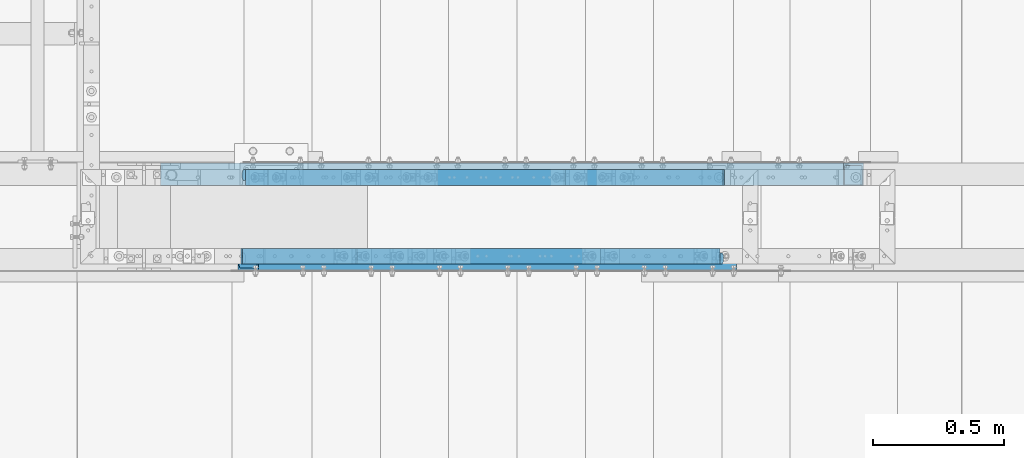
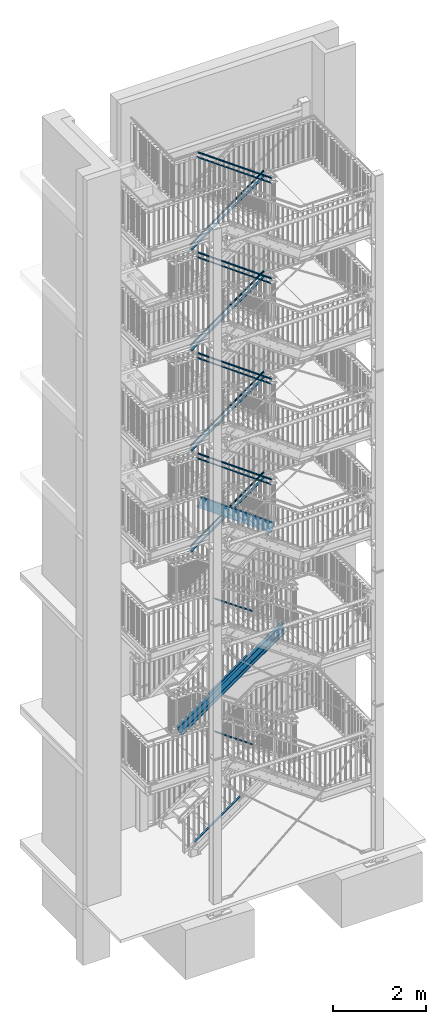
# One storey, part 121 of 821: 22 members, 38 openings.
"""IFC2X3 building model written with IfcOpenShell, lengths in millimetres."""

from ifc_helpers import new_model, entity, si_unit, converted_unit, frame, frame_2d, origin, origin_with_axes, origin_2d, origin_2d_with_axis, place, context, project, spatial, rectangle, circle, hollow_circle, u_section, extrude, clip, halfspace, material, element, save


model = new_model("IFC2X3")

# Units and contexts
model_context = context("Model", 3, precision=1e-09, world=origin_with_axes())
ifc_project = project(units=[si_unit("LENGTHUNIT", "METRE", prefix="MILLI"), si_unit("AREAUNIT", "SQUARE_METRE"), si_unit("VOLUMEUNIT", "CUBIC_METRE"), converted_unit("PLANEANGLEUNIT", "DEGREE", entity("IfcPlaneAngleMeasure", 0.01745329), si_unit("PLANEANGLEUNIT", "RADIAN"), dimensions=[0, 0, 0, 0, 0, 0, 0])], contexts=[model_context])

# Site, building, storey
site_placement = place(None, origin_with_axes())
site = spatial("IfcSite", under=ifc_project, at=site_placement, Name="Cnopf'sche Kinderklinik", CompositionType="ELEMENT")
building_placement = place(site_placement, origin_with_axes())
building = spatial("IfcBuilding", under=site, at=building_placement, Name="Struktur 1", CompositionType="ELEMENT")
storey_placement = place(building_placement, origin_with_axes())
storey = spatial("IfcBuildingStorey", under=building, at=storey_placement, Name="Default Storey", CompositionType="ELEMENT", Elevation=0.0)

# Member, openings
ifc_material = material(Name="S235JR")
member_1_placement = place(None, frame((7252.357329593, 5759.036971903, 8386.450295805), z_axis=(0.810350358, 0.0, -0.585945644), x_axis=(0.0, 1.0, 0.0)))
member_1 = element("IfcMember", 1, at=member_1_placement, inside=storey, material=ifc_material, Name="Stringer#2", ObjectType="Stringer#2", context=model_context, shape_type="Clipping", body=[
    clip(clip(extrude(u_section(Depth=240.0, FlangeWidth=85.0, WebThickness=9.5, FlangeThickness=13.0, FilletRadius=13.0, EdgeRadius=6.5, FlangeSlope=4.574, at=frame_2d((20.2, 0.0))), origin(), (0.0, 0.0, -1.0), 2765.811710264), halfspace(frame((-5759.036971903, -9780.725399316, 2944.574754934), z_axis=(0.0, -0.307936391, -0.951406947), x_axis=(-1.0, 0.0, 0.0)), True)), halfspace(frame((-5759.036971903, -10438.724783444, 911.605598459), z_axis=(0.0, 0.307936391, 0.951406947), x_axis=(1.0, 0.0, 0.0)), True)),
])
opening_1_placement = place(member_1_placement, frame((-22.8, -50.547583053, -1111.89657849), z_axis=(1.0, 0.0, 0.0), x_axis=(0.0, -0.585945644, -0.810350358)))
element("IfcOpeningElement", 2, at=opening_1_placement, cuts=member_1, ObjectType="Opening", context=model_context, shape_type="SweptSolid", body=[
    extrude(circle(Radius=7.001, at=origin_2d_with_axis()), origin(), (0.0, 0.0, 1.0), 10.5),
])
opening_2_placement = place(member_1_placement, frame((-22.8, 54.922632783, -1928.580136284), z_axis=(1.0, 0.0, 0.0), x_axis=(0.0, -0.585945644, -0.810350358)))
element("IfcOpeningElement", 3, at=opening_2_placement, cuts=member_1, ObjectType="Opening", context=model_context, shape_type="SweptSolid", body=[
    extrude(circle(Radius=7.001, at=origin_2d_with_axis()), origin(), (0.0, 0.0, 1.0), 10.5),
])
opening_3_placement = place(member_1_placement, frame((-22.8, 54.922632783, -645.184639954), z_axis=(1.0, 0.0, 0.0), x_axis=(0.0, -0.585945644, -0.810350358)))
element("IfcOpeningElement", 4, at=opening_3_placement, cuts=member_1, ObjectType="Opening", context=model_context, shape_type="SweptSolid", body=[
    extrude(circle(Radius=7.001, at=origin_2d_with_axis()), origin(), (0.0, 0.0, 1.0), 10.5),
])
opening_4_placement = place(member_1_placement, frame((-22.8, 54.922632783, -2249.429010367), z_axis=(1.0, 0.0, 0.0), x_axis=(0.0, -0.585945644, -0.810350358)))
element("IfcOpeningElement", 5, at=opening_4_placement, cuts=member_1, ObjectType="Opening", context=model_context, shape_type="SweptSolid", body=[
    extrude(circle(Radius=7.001, at=origin_2d_with_axis()), origin(), (0.0, 0.0, 1.0), 10.5),
])
opening_5_placement = place(member_1_placement, frame((-22.8, -50.547583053, -1753.594326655), z_axis=(1.0, 0.0, 0.0), x_axis=(0.0, -0.585945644, -0.810350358)))
element("IfcOpeningElement", 6, at=opening_5_placement, cuts=member_1, ObjectType="Opening", context=model_context, shape_type="SweptSolid", body=[
    extrude(circle(Radius=7.001, at=origin_2d_with_axis()), origin(), (0.0, 0.0, 1.0), 10.5),
])
opening_6_placement = place(member_1_placement, frame((-22.8, -50.547583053, -2395.29207482), z_axis=(1.0, 0.0, 0.0), x_axis=(0.0, -0.585945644, -0.810350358)))
element("IfcOpeningElement", 7, at=opening_6_placement, cuts=member_1, ObjectType="Opening", context=model_context, shape_type="SweptSolid", body=[
    extrude(circle(Radius=7.001, at=origin_2d_with_axis()), origin(), (0.0, 0.0, 1.0), 10.5),
])
opening_7_placement = place(member_1_placement, frame((-22.8, -50.547583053, -791.047704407), z_axis=(1.0, 0.0, 0.0), x_axis=(0.0, -0.585945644, -0.810350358)))
element("IfcOpeningElement", 8, at=opening_7_placement, cuts=member_1, ObjectType="Opening", context=model_context, shape_type="SweptSolid", body=[
    extrude(circle(Radius=7.001, at=origin_2d_with_axis()), origin(), (0.0, 0.0, 1.0), 10.5),
])
opening_8_placement = place(member_1_placement, frame((-22.8, 54.922632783, -966.033514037), z_axis=(1.0, 0.0, 0.0), x_axis=(0.0, -0.585945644, -0.810350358)))
element("IfcOpeningElement", 9, at=opening_8_placement, cuts=member_1, ObjectType="Opening", context=model_context, shape_type="SweptSolid", body=[
    extrude(circle(Radius=7.001, at=origin_2d_with_axis()), origin(), (0.0, 0.0, 1.0), 10.5),
])
opening_9_placement = place(member_1_placement, frame((-22.8, -50.547583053, -1432.745452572), z_axis=(1.0, 0.0, 0.0), x_axis=(0.0, -0.585945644, -0.810350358)))
element("IfcOpeningElement", 10, at=opening_9_placement, cuts=member_1, ObjectType="Opening", context=model_context, shape_type="SweptSolid", body=[
    extrude(circle(Radius=7.001, at=origin_2d_with_axis()), origin(), (0.0, 0.0, 1.0), 10.5),
])
opening_10_placement = place(member_1_placement, frame((-22.8, -50.547583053, -2074.443200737), z_axis=(1.0, 0.0, 0.0), x_axis=(0.0, -0.585945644, -0.810350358)))
element("IfcOpeningElement", 11, at=opening_10_placement, cuts=member_1, ObjectType="Opening", context=model_context, shape_type="SweptSolid", body=[
    extrude(circle(Radius=7.001, at=origin_2d_with_axis()), origin(), (0.0, 0.0, 1.0), 10.5),
])
opening_11_placement = place(member_1_placement, frame((-22.8, 54.922632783, -1286.882388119), z_axis=(1.0, 0.0, 0.0), x_axis=(0.0, -0.585945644, -0.810350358)))
element("IfcOpeningElement", 12, at=opening_11_placement, cuts=member_1, ObjectType="Opening", context=model_context, shape_type="SweptSolid", body=[
    extrude(circle(Radius=7.001, at=origin_2d_with_axis()), origin(), (0.0, 0.0, 1.0), 10.5),
])
opening_12_placement = place(member_1_placement, frame((-22.8, 54.922632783, -1607.731262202), z_axis=(1.0, 0.0, 0.0), x_axis=(0.0, -0.585945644, -0.810350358)))
element("IfcOpeningElement", 13, at=opening_12_placement, cuts=member_1, ObjectType="Opening", context=model_context, shape_type="SweptSolid", body=[
    extrude(circle(Radius=7.001, at=origin_2d_with_axis()), origin(), (0.0, 0.0, 1.0), 10.5),
])
opening_13_placement = place(member_1_placement, frame((32.7, 120.5, -422.650824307), z_axis=(0.0, 1.0, 0.0), x_axis=(-1.0, 0.0, 0.0)))
element("IfcOpeningElement", 14, at=opening_13_placement, cuts=member_1, ObjectType="Opening", context=model_context, shape_type="SweptSolid", body=[
    extrude(circle(Radius=7.001, at=frame_2d((0.0, -7.001), x_axis=(1.0, 0.0))), origin(), (0.0, 0.0, -1.0), 14.0),
])
opening_14_placement = place(member_1_placement, frame((32.7, 120.5, -322.650824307), z_axis=(0.0, 1.0, 0.0), x_axis=(-1.0, 0.0, 0.0)))
element("IfcOpeningElement", 15, at=opening_14_placement, cuts=member_1, ObjectType="Opening", context=model_context, shape_type="SweptSolid", body=[
    extrude(circle(Radius=7.001, at=frame_2d((0.0, -7.001), x_axis=(1.0, 0.0))), origin(), (0.0, 0.0, -1.0), 14.0),
])
opening_15_placement = place(member_1_placement, frame((32.7, 120.5, -1851.045948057), z_axis=(0.0, 1.0, 0.0), x_axis=(-1.0, 0.0, 0.0)))
element("IfcOpeningElement", 16, at=opening_15_placement, cuts=member_1, ObjectType="Opening", context=model_context, shape_type="SweptSolid", body=[
    extrude(circle(Radius=7.001, at=frame_2d((0.0, -7.001), x_axis=(1.0, 0.0))), origin(), (0.0, 0.0, -1.0), 14.0),
])
opening_16_placement = place(member_1_placement, frame((32.7, 120.5, -1751.045948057), z_axis=(0.0, 1.0, 0.0), x_axis=(-1.0, 0.0, 0.0)))
element("IfcOpeningElement", 17, at=opening_16_placement, cuts=member_1, ObjectType="Opening", context=model_context, shape_type="SweptSolid", body=[
    extrude(circle(Radius=7.001, at=frame_2d((0.0, -7.001), x_axis=(1.0, 0.0))), origin(), (0.0, 0.0, -1.0), 14.0),
])

member_2_placement = place(None, frame((4776.641171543, 6124.436971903, 3599.654006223), z_axis=(-0.818063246, 0.0, -0.575128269), x_axis=(0.0, -1.0, 0.0)))
member_2 = element("IfcMember", 18, at=member_2_placement, inside=storey, material=ifc_material, Name="Stringer#2", ObjectType="Stringer#2", context=model_context, shape_type="Clipping", body=[
    clip(clip(extrude(u_section(Depth=240.0, FlangeWidth=85.0, WebThickness=9.5, FlangeThickness=13.0, FilletRadius=13.0, EdgeRadius=6.5, FlangeSlope=4.574, at=frame_2d((20.2, 0.0))), origin(), (0.0, 0.0, -1.0), 3697.004056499), halfspace(frame((6124.436971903, -2876.228700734, -2489.789648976), z_axis=(0.0, 0.301609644, 0.953431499), x_axis=(1.0, 0.0, 0.0)), True)), halfspace(frame((6124.436971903, -1962.281935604, 399.327631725), z_axis=(0.0, -0.301609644, -0.953431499), x_axis=(-1.0, 0.0, 0.0)), True)),
])
opening_17_placement = place(member_2_placement, frame((-22.8, 54.877031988, -2232.875726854), z_axis=(1.0, 0.0, 0.0), x_axis=(0.0, -0.575128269, -0.818063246)))
element("IfcOpeningElement", 19, at=opening_17_placement, cuts=member_2, ObjectType="Opening", context=model_context, shape_type="SweptSolid", body=[
    extrude(circle(Radius=7.001, at=origin_2d_with_axis()), origin(), (0.0, 0.0, 1.0), 10.5),
])
opening_18_placement = place(member_2_placement, frame((-22.8, -48.646056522, -2380.127111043), z_axis=(1.0, 0.0, 0.0), x_axis=(0.0, -0.575128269, -0.818063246)))
element("IfcOpeningElement", 20, at=opening_18_placement, cuts=member_2, ObjectType="Opening", context=model_context, shape_type="SweptSolid", body=[
    extrude(circle(Radius=7.001, at=origin_2d_with_axis()), origin(), (0.0, 0.0, 1.0), 10.5),
])
opening_19_placement = place(member_2_placement, frame((-22.8, 54.87703196, -1915.051889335), z_axis=(1.0, 0.0, 0.0), x_axis=(0.0, -0.575128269, -0.818063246)))
element("IfcOpeningElement", 21, at=opening_19_placement, cuts=member_2, ObjectType="Opening", context=model_context, shape_type="SweptSolid", body=[
    extrude(circle(Radius=7.001, at=origin_2d_with_axis()), origin(), (0.0, 0.0, 1.0), 10.5),
])
opening_20_placement = place(member_2_placement, frame((-22.8, 54.877032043, -2868.523401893), z_axis=(1.0, 0.0, 0.0), x_axis=(0.0, -0.575128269, -0.818063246)))
element("IfcOpeningElement", 22, at=opening_20_placement, cuts=member_2, ObjectType="Opening", context=model_context, shape_type="SweptSolid", body=[
    extrude(circle(Radius=7.001, at=origin_2d_with_axis()), origin(), (0.0, 0.0, 1.0), 10.5),
])
opening_21_placement = place(member_2_placement, frame((-22.8, 54.877031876, -961.580376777), z_axis=(1.0, 0.0, 0.0), x_axis=(0.0, -0.575128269, -0.818063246)))
element("IfcOpeningElement", 23, at=opening_21_placement, cuts=member_2, ObjectType="Opening", context=model_context, shape_type="SweptSolid", body=[
    extrude(circle(Radius=7.001, at=origin_2d_with_axis()), origin(), (0.0, 0.0, 1.0), 10.5),
])
opening_22_placement = place(member_2_placement, frame((-22.8, -48.64605655, -2062.303273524), z_axis=(1.0, 0.0, 0.0), x_axis=(0.0, -0.575128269, -0.818063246)))
element("IfcOpeningElement", 24, at=opening_22_placement, cuts=member_2, ObjectType="Opening", context=model_context, shape_type="SweptSolid", body=[
    extrude(circle(Radius=7.001, at=origin_2d_with_axis()), origin(), (0.0, 0.0, 1.0), 10.5),
])
opening_23_placement = place(member_2_placement, frame((-22.8, -48.646056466, -3015.774786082), z_axis=(1.0, 0.0, 0.0), x_axis=(0.0, -0.575128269, -0.818063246)))
element("IfcOpeningElement", 25, at=opening_23_placement, cuts=member_2, ObjectType="Opening", context=model_context, shape_type="SweptSolid", body=[
    extrude(circle(Radius=7.001, at=origin_2d_with_axis()), origin(), (0.0, 0.0, 1.0), 10.5),
])
opening_24_placement = place(member_2_placement, frame((-22.8, 54.877031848, -643.756539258), z_axis=(1.0, 0.0, 0.0), x_axis=(0.0, -0.575128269, -0.818063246)))
element("IfcOpeningElement", 26, at=opening_24_placement, cuts=member_2, ObjectType="Opening", context=model_context, shape_type="SweptSolid", body=[
    extrude(circle(Radius=7.001, at=origin_2d_with_axis()), origin(), (0.0, 0.0, 1.0), 10.5),
])
opening_25_placement = place(member_2_placement, frame((-22.8, -48.646056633, -1108.831760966), z_axis=(1.0, 0.0, 0.0), x_axis=(0.0, -0.575128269, -0.818063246)))
element("IfcOpeningElement", 27, at=opening_25_placement, cuts=member_2, ObjectType="Opening", context=model_context, shape_type="SweptSolid", body=[
    extrude(circle(Radius=7.001, at=origin_2d_with_axis()), origin(), (0.0, 0.0, 1.0), 10.5),
])
opening_26_placement = place(member_2_placement, frame((-22.8, 54.877031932, -1597.228051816), z_axis=(1.0, 0.0, 0.0), x_axis=(0.0, -0.575128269, -0.818063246)))
element("IfcOpeningElement", 28, at=opening_26_placement, cuts=member_2, ObjectType="Opening", context=model_context, shape_type="SweptSolid", body=[
    extrude(circle(Radius=7.001, at=origin_2d_with_axis()), origin(), (0.0, 0.0, 1.0), 10.5),
])
opening_27_placement = place(member_2_placement, frame((-22.8, -48.646056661, -791.007923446), z_axis=(1.0, 0.0, 0.0), x_axis=(0.0, -0.575128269, -0.818063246)))
element("IfcOpeningElement", 29, at=opening_27_placement, cuts=member_2, ObjectType="Opening", context=model_context, shape_type="SweptSolid", body=[
    extrude(circle(Radius=7.001, at=origin_2d_with_axis()), origin(), (0.0, 0.0, 1.0), 10.5),
])
opening_28_placement = place(member_2_placement, frame((-22.8, -48.646056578, -1744.479436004), z_axis=(1.0, 0.0, 0.0), x_axis=(0.0, -0.575128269, -0.818063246)))
element("IfcOpeningElement", 30, at=opening_28_placement, cuts=member_2, ObjectType="Opening", context=model_context, shape_type="SweptSolid", body=[
    extrude(circle(Radius=7.001, at=origin_2d_with_axis()), origin(), (0.0, 0.0, 1.0), 10.5),
])
opening_29_placement = place(member_2_placement, frame((-22.8, -48.646056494, -2697.950948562), z_axis=(1.0, 0.0, 0.0), x_axis=(0.0, -0.575128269, -0.818063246)))
element("IfcOpeningElement", 31, at=opening_29_placement, cuts=member_2, ObjectType="Opening", context=model_context, shape_type="SweptSolid", body=[
    extrude(circle(Radius=7.001, at=origin_2d_with_axis()), origin(), (0.0, 0.0, 1.0), 10.5),
])
opening_30_placement = place(member_2_placement, frame((-22.8, 54.877032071, -3186.347239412), z_axis=(1.0, 0.0, 0.0), x_axis=(0.0, -0.575128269, -0.818063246)))
element("IfcOpeningElement", 32, at=opening_30_placement, cuts=member_2, ObjectType="Opening", context=model_context, shape_type="SweptSolid", body=[
    extrude(circle(Radius=7.001, at=origin_2d_with_axis()), origin(), (0.0, 0.0, 1.0), 10.5),
])
opening_31_placement = place(member_2_placement, frame((-22.8, -48.646056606, -1426.655598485), z_axis=(1.0, 0.0, 0.0), x_axis=(0.0, -0.575128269, -0.818063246)))
element("IfcOpeningElement", 33, at=opening_31_placement, cuts=member_2, ObjectType="Opening", context=model_context, shape_type="SweptSolid", body=[
    extrude(circle(Radius=7.001, at=origin_2d_with_axis()), origin(), (0.0, 0.0, 1.0), 10.5),
])
opening_32_placement = place(member_2_placement, frame((-22.8, 54.877032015, -2550.699564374), z_axis=(1.0, 0.0, 0.0), x_axis=(0.0, -0.575128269, -0.818063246)))
element("IfcOpeningElement", 34, at=opening_32_placement, cuts=member_2, ObjectType="Opening", context=model_context, shape_type="SweptSolid", body=[
    extrude(circle(Radius=7.001, at=origin_2d_with_axis()), origin(), (0.0, 0.0, 1.0), 10.5),
])
opening_33_placement = place(member_2_placement, frame((-22.8, -48.646056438, -3333.598623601), z_axis=(1.0, 0.0, 0.0), x_axis=(0.0, -0.575128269, -0.818063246)))
element("IfcOpeningElement", 35, at=opening_33_placement, cuts=member_2, ObjectType="Opening", context=model_context, shape_type="SweptSolid", body=[
    extrude(circle(Radius=7.001, at=origin_2d_with_axis()), origin(), (0.0, 0.0, 1.0), 10.5),
])
opening_34_placement = place(member_2_placement, frame((-22.8, 54.877031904, -1279.404214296), z_axis=(1.0, 0.0, 0.0), x_axis=(0.0, -0.575128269, -0.818063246)))
element("IfcOpeningElement", 36, at=opening_34_placement, cuts=member_2, ObjectType="Opening", context=model_context, shape_type="SweptSolid", body=[
    extrude(circle(Radius=7.001, at=origin_2d_with_axis()), origin(), (0.0, 0.0, 1.0), 10.5),
])
opening_35_placement = place(member_2_placement, frame((32.7, 120.5, -1237.683048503), z_axis=(0.0, 1.0, 0.0), x_axis=(-1.0, 0.0, 0.0)))
element("IfcOpeningElement", 37, at=opening_35_placement, cuts=member_2, ObjectType="Opening", context=model_context, shape_type="SweptSolid", body=[
    extrude(circle(Radius=7.001, at=frame_2d((0.0, -7.001), x_axis=(1.0, 0.0))), origin(), (0.0, 0.0, -1.0), 14.0),
])
opening_36_placement = place(member_2_placement, frame((32.7, 120.5, -1137.683048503), z_axis=(0.0, 1.0, 0.0), x_axis=(-1.0, 0.0, 0.0)))
element("IfcOpeningElement", 38, at=opening_36_placement, cuts=member_2, ObjectType="Opening", context=model_context, shape_type="SweptSolid", body=[
    extrude(circle(Radius=7.001, at=frame_2d((0.0, -7.001), x_axis=(1.0, 0.0))), origin(), (0.0, 0.0, -1.0), 14.0),
])
opening_37_placement = place(member_2_placement, frame((32.7, 120.5, -2425.447978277), z_axis=(0.0, 1.0, 0.0), x_axis=(-1.0, 0.0, 0.0)))
element("IfcOpeningElement", 39, at=opening_37_placement, cuts=member_2, ObjectType="Opening", context=model_context, shape_type="SweptSolid", body=[
    extrude(circle(Radius=7.001, at=frame_2d((0.0, -7.001), x_axis=(1.0, 0.0))), origin(), (0.0, 0.0, -1.0), 14.0),
])
opening_38_placement = place(member_2_placement, frame((32.7, 120.5, -2325.447978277), z_axis=(0.0, 1.0, 0.0), x_axis=(-1.0, 0.0, 0.0)))
element("IfcOpeningElement", 40, at=opening_38_placement, cuts=member_2, ObjectType="Opening", context=model_context, shape_type="SweptSolid", body=[
    extrude(circle(Radius=7.001, at=frame_2d((0.0, -7.001), x_axis=(1.0, 0.0))), origin(), (0.0, 0.0, -1.0), 14.0),
])

# Members
member_3_placement = place(None, frame((5332.114193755, 6091.736971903, 702.815552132), z_axis=(-0.814635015, 0.0, -0.579973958), x_axis=(0.579973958, 0.0, -0.814635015)))
element("IfcMember", 41, at=member_3_placement, inside=storey, material=ifc_material, Name="Railing_Kneerail_Stair#1", ObjectType="Railing_Kneerail_Stair#1", context=model_context, shape_type="SweptSolid", body=[
    extrude(rectangle(XDim=10.0, YDim=60.0, at=origin_2d()), origin(), (0.0, 0.0, -1.0), 1383.073435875),
])
member_4_placement = place(None, frame((5683.755877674, 6091.736971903, 4463.532581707), z_axis=(-0.818063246, 0.0, -0.575128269), x_axis=(0.575128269, 0.0, -0.818063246)))
element("IfcMember", 42, at=member_4_placement, inside=storey, material=ifc_material, Name="Railing_Kneerail_Stair#3", ObjectType="Railing_Kneerail_Stair#3", context=model_context, shape_type="SweptSolid", body=[
    extrude(rectangle(XDim=10.0, YDim=60.0, at=origin_2d()), origin(), (0.0, 0.0, -1.0), 1162.398574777),
])
member_5_placement = place(None, frame((5211.177138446, 6100.536971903, 8441.535316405), z_axis=(-0.810350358, 0.0, -0.585945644), x_axis=(0.585945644, 0.0, -0.810350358)))
element("IfcMember", 43, at=member_5_placement, inside=storey, material=ifc_material, Name="Gel?nder", ObjectType="Gel?nder", context=model_context, shape_type="Clipping", body=[
    clip(clip(extrude(hollow_circle(Radius=21.2, WallThickness=3.2, at=origin_2d()), origin(), (0.0, 0.0, -1.0), 2308.967362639), halfspace(frame((6781.567004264, 6100.536971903, -82.503068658), z_axis=(-0.307936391, 0.0, 0.951406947), x_axis=(0.0, 1.0, 0.0)), True)), halfspace(frame((6123.567620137, 6100.536971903, 1950.466087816), z_axis=(0.307936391, 0.0, -0.951406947), x_axis=(0.0, -1.0, 0.0)), True)),
])
member_6_placement = place(None, frame((5211.164211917, 6100.536971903, 11073.561064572), z_axis=(-0.810878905, 0.0, -0.585213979), x_axis=(0.585213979, 0.0, -0.810878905)))
element("IfcMember", 44, at=member_6_placement, inside=storey, material=ifc_material, Name="Gel?nder", ObjectType="Gel?nder", context=model_context, shape_type="Clipping", body=[
    clip(clip(extrude(hollow_circle(Radius=21.2, WallThickness=3.2, at=origin_2d()), origin(), (0.0, 0.0, -1.0), 2307.494214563), halfspace(frame((9167.585155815, 6100.536971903, 686.664086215), z_axis=(-0.307506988, 0.0, 0.951545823), x_axis=(0.0, 1.0, 0.0)), True)), halfspace(frame((8510.835770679, 6100.536971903, 2718.901267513), z_axis=(0.307506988, 0.0, -0.951545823), x_axis=(0.0, -1.0, 0.0)), True)),
])
member_7_placement = place(None, frame((5211.184895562, 6100.536971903, 13700.519885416), z_axis=(-0.810033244, 0.0, -0.586383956), x_axis=(0.586383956, 0.0, -0.810033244)))
element("IfcMember", 45, at=member_7_placement, inside=storey, material=ifc_material, Name="Gel?nder", ObjectType="Gel?nder", context=model_context, shape_type="Clipping", body=[
    clip(clip(extrude(hollow_circle(Radius=21.2, WallThickness=3.2, at=origin_2d()), origin(), (0.0, 0.0, -1.0), 2309.852130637), halfspace(frame((11539.310370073, 6100.536971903, 1459.974901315), z_axis=(-0.308193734, 0.0, 0.951323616), x_axis=(0.0, 1.0, 0.0)), True)), halfspace(frame((10880.56098641, 6100.536971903, 3493.383681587), z_axis=(0.308193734, 0.0, -0.951323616), x_axis=(0.0, -1.0, 0.0)), True)),
])
member_8_placement = place(None, frame((5211.146119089, 6100.536971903, 16335.597174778), z_axis=(-0.811618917, 0.0, -0.584187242), x_axis=(0.584187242, 0.0, -0.811618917)))
element("IfcMember", 46, at=member_8_placement, inside=storey, material=ifc_material, Name="Gel?nder", ObjectType="Gel?nder", context=model_context, shape_type="Clipping", body=[
    clip(clip(extrude(hollow_circle(Radius=21.2, WallThickness=3.2, at=origin_2d()), origin(), (0.0, 0.0, -1.0), 2305.43489061), halfspace(frame((13938.996995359, 6100.536971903, 2220.933713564), z_axis=(-0.306904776, 0.0, 0.951740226), x_axis=(0.0, 1.0, 0.0)), True)), halfspace(frame((13283.997609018, 6100.536971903, 4252.147668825), z_axis=(0.306904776, 0.0, -0.951740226), x_axis=(0.0, -1.0, 0.0)), True)),
])
member_9_placement = place(None, frame((6591.314199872, 5791.736971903, 3002.391345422), z_axis=(0.814635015, 0.0, -0.579973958), x_axis=(-0.579973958, 0.0, -0.814635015)))
element("IfcMember", 47, at=member_9_placement, inside=storey, material=ifc_material, Name="Railing_Kneerail_Stair#3", ObjectType="Railing_Kneerail_Stair#3", context=model_context, shape_type="SweptSolid", body=[
    extrude(rectangle(XDim=10.0, YDim=60.0, at=origin_2d()), origin(), (0.0, 0.0, -1.0), 1134.496524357),
])
member_10_placement = place(None, frame((6591.338428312, 5791.736971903, 6487.105207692), z_axis=(0.818063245, 0.0, -0.57512827), x_axis=(-0.57512827, 0.0, -0.818063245)))
element("IfcMember", 48, at=member_10_placement, inside=storey, material=ifc_material, Name="Railing_Kneerail_Stair#3", ObjectType="Railing_Kneerail_Stair#3", context=model_context, shape_type="SweptSolid", body=[
    extrude(rectangle(XDim=10.0, YDim=60.0, at=origin_2d()), origin(), (0.0, 0.0, -1.0), 1129.801461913),
])
member_11_placement = place(None, frame((7082.24966754, 5782.936971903, 9757.535316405), z_axis=(0.810350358, 0.0, -0.585945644), x_axis=(-0.585945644, 0.0, -0.810350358)))
element("IfcMember", 49, at=member_11_placement, inside=storey, material=ifc_material, Name="Gel?nder", ObjectType="Gel?nder", context=model_context, shape_type="Clipping", body=[
    clip(clip(extrude(hollow_circle(Radius=21.2, WallThickness=3.2, at=origin_2d()), origin(), (0.0, 0.0, -1.0), 2308.967362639), halfspace(frame((10916.418096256, -5782.936971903, 3501.740317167), z_axis=(0.307936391, 0.0, -0.951406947), x_axis=(0.0, -1.0, 0.0)), True)), halfspace(frame((11574.417480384, -5782.936971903, 1468.771160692), z_axis=(-0.307936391, 0.0, 0.951406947), x_axis=(0.0, 1.0, 0.0)), True)),
])
member_12_placement = place(None, frame((7082.262594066, 5782.936971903, 12387.061064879), z_axis=(0.810878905, 0.0, -0.585213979), x_axis=(-0.585213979, 0.0, -0.810878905)))
element("IfcMember", 50, at=member_12_placement, inside=storey, material=ifc_material, Name="Gel?nder", ObjectType="Gel?nder", context=model_context, shape_type="Clipping", body=[
    clip(clip(extrude(hollow_circle(Radius=21.2, WallThickness=3.2, at=origin_2d()), origin(), (0.0, 0.0, -1.0), 2307.494214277), halfspace(frame((13954.022486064, -5782.936971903, 2233.476534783), z_axis=(-0.307506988, 0.0, 0.951545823), x_axis=(0.0, 1.0, 0.0)), True)), halfspace(frame((13297.273101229, -5782.936971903, 4265.71371598), z_axis=(0.307506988, 0.0, -0.951545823), x_axis=(0.0, -1.0, 0.0)), True)),
])
member_13_placement = place(None, frame((7082.241910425, 5782.936971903, 15018.019885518), z_axis=(0.810033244, 0.0, -0.586383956), x_axis=(-0.586383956, 0.0, -0.810033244)))
element("IfcMember", 51, at=member_13_placement, inside=storey, material=ifc_material, Name="Gel?nder", ObjectType="Gel?nder", context=model_context, shape_type="Clipping", body=[
    clip(clip(extrude(hollow_circle(Radius=21.2, WallThickness=3.2, at=origin_2d()), origin(), (0.0, 0.0, -1.0), 2309.852130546), halfspace(frame((15677.254505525, -5782.936971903, 5047.335316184), z_axis=(0.308193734, 0.0, -0.951323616), x_axis=(0.0, -1.0, 0.0)), True)), halfspace(frame((16336.003889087, -5782.936971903, 3013.926535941), z_axis=(-0.308193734, 0.0, 0.951323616), x_axis=(0.0, 1.0, 0.0)), True)),
])
member_14_placement = place(None, frame((7082.280686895, 5782.936971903, 17645.597175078), z_axis=(0.811618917, 0.0, -0.584187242), x_axis=(-0.584187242, 0.0, -0.811618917)))
element("IfcMember", 52, at=member_14_placement, inside=storey, material=ifc_material, Name="Gel?nder", ObjectType="Gel?nder", context=model_context, shape_type="Clipping", body=[
    clip(clip(extrude(hollow_circle(Radius=21.2, WallThickness=3.2, at=origin_2d()), origin(), (0.0, 0.0, -1.0), 2305.43488958), halfspace(frame((18716.438937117, -5782.936971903, 3761.500887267), z_axis=(-0.306904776, 0.0, 0.951740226), x_axis=(0.0, 1.0, 0.0)), True)), halfspace(frame((18061.439551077, -5782.936971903, 5792.714841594), z_axis=(0.306904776, 0.0, -0.951740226), x_axis=(0.0, -1.0, 0.0)), True)),
])
member_15_placement = place(None, frame((7046.956167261, 5791.736971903, 17538.741905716), z_axis=(0.811618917, 0.0, -0.584187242), x_axis=(-0.584187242, 0.0, -0.811618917)))
element("IfcMember", 53, at=member_15_placement, inside=storey, material=ifc_material, Name="Railing_Kneerail_Stair#1003", ObjectType="Railing_Kneerail_Stair#1003", context=model_context, shape_type="SweptSolid", body=[
    extrude(rectangle(XDim=10.0, YDim=60.0, at=origin_2d()), origin(), (0.0, 0.0, -1.0), 2239.207046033),
])
member_16_placement = place(None, frame((5246.470638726, 6091.736971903, 16228.741905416), z_axis=(-0.811618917, 0.0, -0.584187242), x_axis=(0.584187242, 0.0, -0.811618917)))
element("IfcMember", 54, at=member_16_placement, inside=storey, material=ifc_material, Name="Railing_Kneerail_Stair#1003", ObjectType="Railing_Kneerail_Stair#1003", context=model_context, shape_type="SweptSolid", body=[
    extrude(rectangle(XDim=10.0, YDim=60.0, at=origin_2d()), origin(), (0.0, 0.0, -1.0), 2239.207047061),
])
member_17_placement = place(None, frame((7046.913465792, 5791.736971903, 14911.249833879), z_axis=(0.810033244, 0.0, -0.586383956), x_axis=(-0.586383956, 0.0, -0.810033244)))
element("IfcMember", 55, at=member_17_placement, inside=storey, material=ifc_material, Name="Railing_Kneerail_Stair#1001", ObjectType="Railing_Kneerail_Stair#1001", context=model_context, shape_type="SweptSolid", body=[
    extrude(rectangle(XDim=10.0, YDim=60.0, at=origin_2d()), origin(), (0.0, 0.0, -1.0), 2243.581734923),
])
member_18_placement = place(None, frame((5246.513340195, 6091.736971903, 13593.749833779), z_axis=(-0.810033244, 0.0, -0.586383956), x_axis=(0.586383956, 0.0, -0.810033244)))
element("IfcMember", 56, at=member_18_placement, inside=storey, material=ifc_material, Name="Railing_Kneerail_Stair#1003", ObjectType="Railing_Kneerail_Stair#1003", context=model_context, shape_type="SweptSolid", body=[
    extrude(rectangle(XDim=10.0, YDim=60.0, at=origin_2d()), origin(), (0.0, 0.0, -1.0), 2243.581735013),
])
member_19_placement = place(None, frame((7046.936219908, 5791.736971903, 12280.245605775), z_axis=(0.810878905, 0.0, -0.585213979), x_axis=(-0.585213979, 0.0, -0.810878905)))
element("IfcMember", 57, at=member_19_placement, inside=storey, material=ifc_material, Name="Railing_Kneerail_Stair#1003", ObjectType="Railing_Kneerail_Stair#1003", context=model_context, shape_type="SweptSolid", body=[
    extrude(rectangle(XDim=10.0, YDim=60.0, at=origin_2d()), origin(), (0.0, 0.0, -1.0), 2241.246511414),
])
member_20_placement = place(None, frame((5246.490586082, 6091.736971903, 10966.745605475), z_axis=(-0.810878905, 0.0, -0.585213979), x_axis=(0.585213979, 0.0, -0.810878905)))
element("IfcMember", 58, at=member_20_placement, inside=storey, material=ifc_material, Name="Railing_Kneerail_Stair#1003", ObjectType="Railing_Kneerail_Stair#1003", context=model_context, shape_type="SweptSolid", body=[
    extrude(rectangle(XDim=10.0, YDim=60.0, at=origin_2d()), origin(), (0.0, 0.0, -1.0), 2241.246511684),
])
for number, where, z_axis, x_axis, name in (
    (59, (7046.92199323, 5791.736971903, 9650.74824821), (0.810350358, 0.0, -0.585945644), (-0.585945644, 0.0, -0.810350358), "Railing_Kneerail_Stair#1003"),
    (60, (5246.504812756, 6091.736971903, 8334.74824821), (-0.810350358, 0.0, -0.585945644), (0.585945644, 0.0, -0.810350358), "Railing_Kneerail_Stair#1003"),
):
    element("IfcMember", number, at=place(None, frame(where, z_axis=z_axis, x_axis=x_axis)), inside=storey, material=ifc_material, Name=name, ObjectType="Railing_Kneerail_Stair#1003", context=model_context, shape_type="SweptSolid", body=[
        extrude(rectangle(XDim=10.0, YDim=60.0, at=origin_2d()), origin(), (0.0, 0.0, -1.0), 2242.705476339),
    ])

save(model, "model.ifc")
